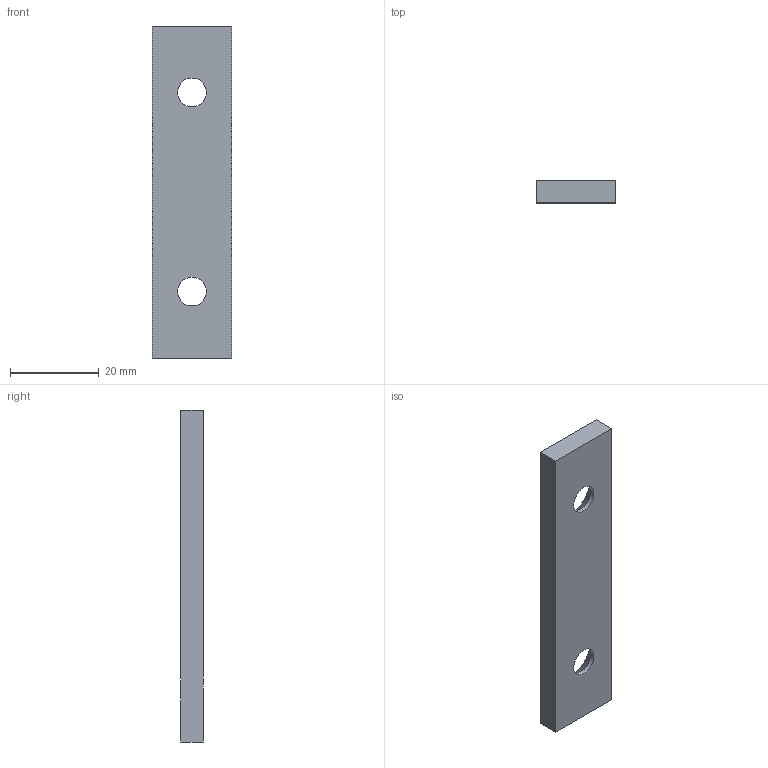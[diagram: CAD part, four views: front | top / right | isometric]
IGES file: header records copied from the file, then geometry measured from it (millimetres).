
Start section: Data from Parasolid IGES Translator 20.0.26, Copyright(c) 2006 Siemens P LM Software. All Rights Reserved.
Global section: file name: P605-01-018-075.igs; native system: By Siemens PLM Incorporated; preprocessor: XPlus GENERIC/IGES 20.0.26; author: Noname; organization: Noname; date: 20190705.145349; units: millimetre
Bounding box: 18 x 5 x 75 mm (x, y, z)
Surface area: 3647.4 mm2 (no closed solid volume)
Topology: 0 solids, 0 shells, 10 faces, 44 edges, 42 vertices
Faces by surface type: extrusion 6, revolution 4
